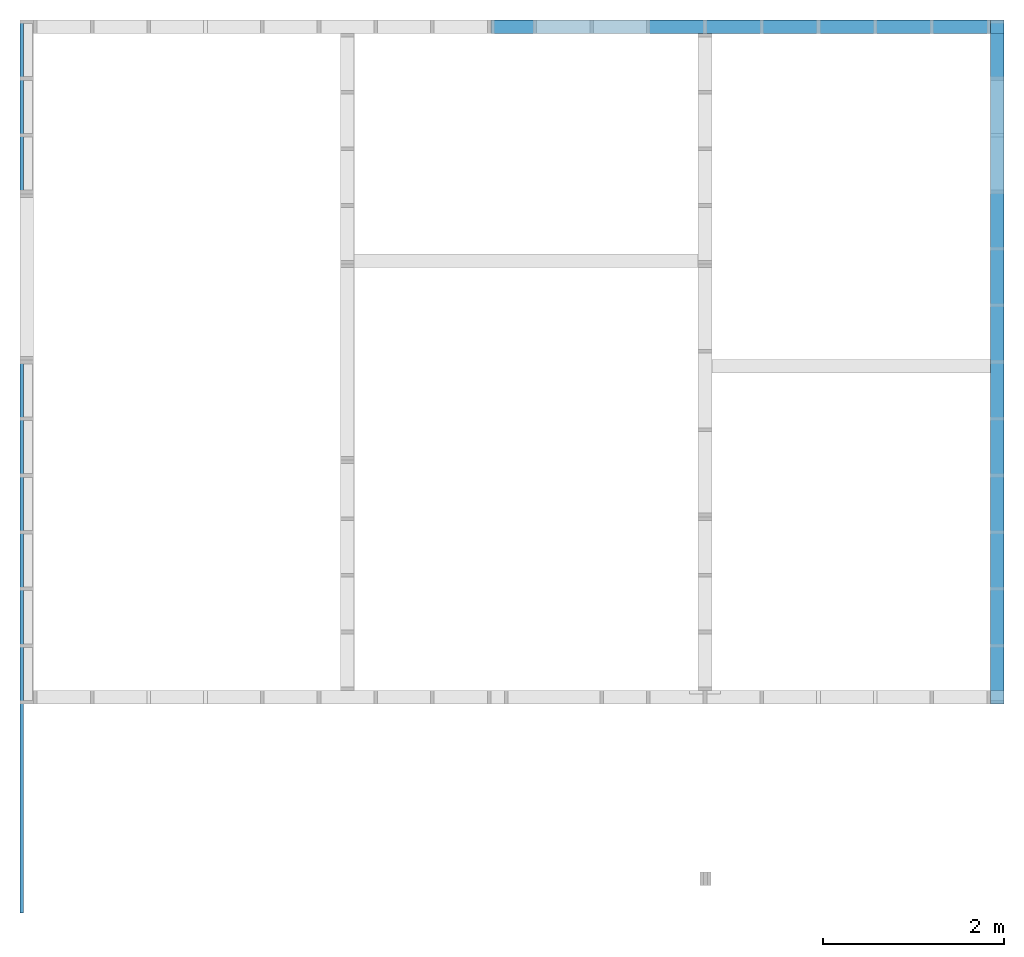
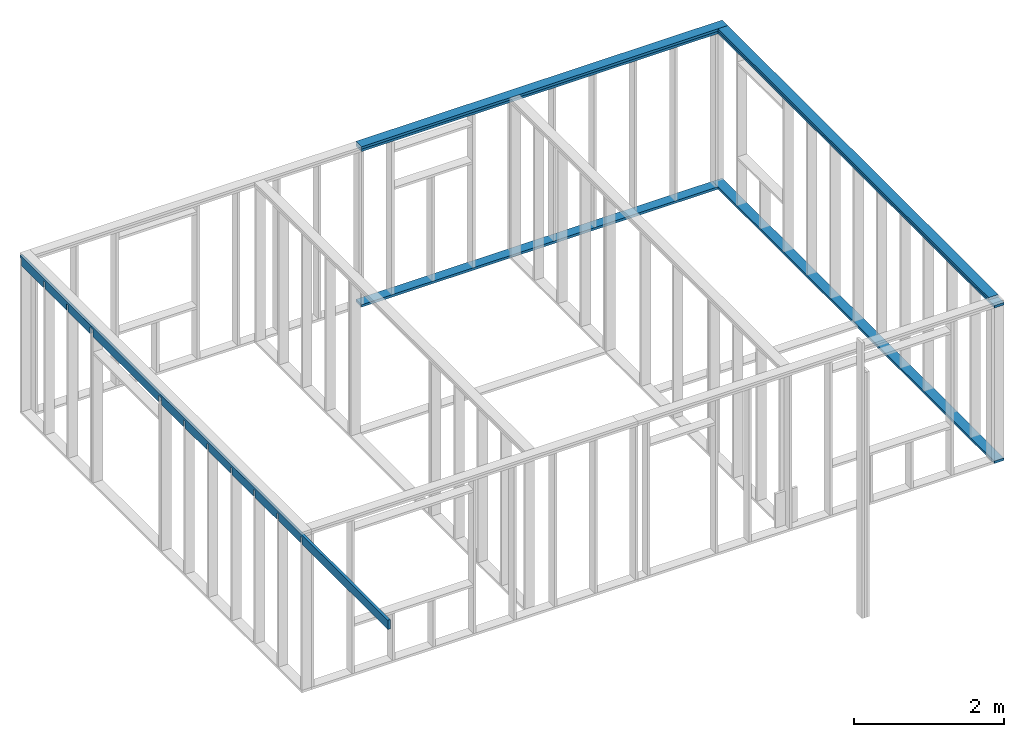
# One storey, part 2 of 2: 7 beams.
"""IFC4 building model written with IfcOpenShell, lengths in millimetres."""

from ifc_helpers import new_model, si_unit, derived_unit, frame, origin_with_axes, place, context, subcontext, project, spatial, polygons, source, transform, mapped, material, type_object, element, save


model = new_model("IFC4")

# Units and contexts
model_context = context("Model", 3, precision=1e-06, world=origin_with_axes())
body_context = subcontext(model_context, "Body", "Model", "MODEL_VIEW")
ifc_project = project(units=[si_unit("LENGTHUNIT", "METRE", prefix="MILLI"), si_unit("AREAUNIT", "SQUARE_METRE"), si_unit("VOLUMEUNIT", "CUBIC_METRE"), si_unit("MASSUNIT", "GRAM", prefix="KILO"), si_unit("ELECTRICVOLTAGEUNIT", "VOLT", prefix="KILO"), si_unit("THERMODYNAMICTEMPERATUREUNIT", "DEGREE_CELSIUS"), si_unit("PRESSUREUNIT", "PASCAL", prefix="MEGA"), si_unit("PLANEANGLEUNIT", "RADIAN"), derived_unit("THERMALCONDUCTANCEUNIT", [(si_unit("POWERUNIT", "WATT"), 1), (si_unit("LENGTHUNIT", "METRE"), -1), (si_unit("THERMODYNAMICTEMPERATUREUNIT", "KELVIN"), -1)]), derived_unit("MASSDENSITYUNIT", [(si_unit("MASSUNIT", "GRAM", prefix="KILO"), 1), (si_unit("VOLUMEUNIT", "CUBIC_METRE"), -1)])], contexts=[model_context])

# Site, building, storey
site_placement = place(None, origin_with_axes())
site = spatial("IfcSite", under=ifc_project, at=site_placement, CompositionType="ELEMENT")
building_placement = place(site_placement, origin_with_axes())
building = spatial("IfcBuilding", under=site, at=building_placement, CompositionType="ELEMENT")
storey_placement = place(building_placement, origin_with_axes())
storey = spatial("IfcBuildingStorey", under=building, at=storey_placement, Name="Базовый уровень", CompositionType="ELEMENT", Elevation=0.0)

# Beams
ifc_material_1 = material(Name="Древесина конструктивная")
beam_type = type_object("IfcBeamType", Name="Доска 40х150", PredefinedType="BEAM")
shared_shape_1 = source(origin_with_axes(), body_context, "Body", "Tessellation", [
    polygons([(10695.000000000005, 7539.999999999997, 0.0), (10845.000000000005, 7539.999999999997, 0.0), (10845.000000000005, 7.276e-12, 0.0), (10695.000000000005, 7.276e-12, 0.0), (10695.000000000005, 7539.999999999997, 40.0), (10845.000000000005, 7539.999999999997, 40.0), (10845.000000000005, 7.276e-12, 40.0), (10695.000000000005, 7.276e-12, 40.0)], [[[1, 2, 3, 4]], [[2, 1, 5, 6]], [[2, 6, 7, 3]], [[3, 7, 8, 4]], [[5, 1, 4, 8]], [[6, 5, 8, 7]]], closed=True),
])
beam_1_placement = place(storey_placement, frame((10695.000000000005, 7539.999999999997, 0.0), z_axis=(0.0, 1.0, 0.0), x_axis=(-1.0, 0.0, 0.0)))
element("IfcBeam", 1, at=beam_1_placement, inside=storey, type_object=beam_type, material=ifc_material_1, Name="Балка - Доска 40х150", context=body_context, shape_type="MappedRepresentation", body=[
    mapped(shared_shape_1, transform((10695.000000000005, 0.0, -7539.999999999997), x_axis=(-1.0, 0.0, 0.0), y_axis=(0.0, 0.0, 1.0), z_axis=(0.0, 1.0, 0.0), scale=1.0)),
])
shared_shape_2 = source(origin_with_axes(), body_context, "Body", "Tessellation", [
    polygons([(10695.000000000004, 7539.999999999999, 0.0), (10695.000000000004, 7539.999999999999, 40.0), (10695.000000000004, 7389.999999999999, 40.0), (10695.000000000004, 7389.999999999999, 0.0), (5190.0, 7539.999999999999, 0.0), (5190.0, 7539.999999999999, 40.0), (5190.0, 7389.999999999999, 40.0), (5190.0, 7389.999999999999, 0.0)], [[[1, 2, 3, 4]], [[5, 6, 2, 1]], [[6, 7, 3, 2]], [[7, 8, 4, 3]], [[8, 5, 1, 4]], [[5, 8, 7, 6]]], closed=True),
])
beam_2_placement = place(storey_placement, frame((5190.0, 7389.999999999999, 0.0), z_axis=(-1.0, 0.0, 0.0), x_axis=(0.0, -1.0, 0.0)))
element("IfcBeam", 2, at=beam_2_placement, inside=storey, type_object=beam_type, material=ifc_material_1, Name="Балка - Доска 40х150", context=body_context, shape_type="MappedRepresentation", body=[
    mapped(shared_shape_2, transform((7389.999999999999, 0.0, 5190.0), x_axis=(0.0, 0.0, -1.0), y_axis=(-1.0, 0.0, 0.0), z_axis=(0.0, 1.0, 0.0), scale=1.0)),
])
shared_shape_3 = source(origin_with_axes(), body_context, "Body", "Tessellation", [
    polygons([(-150.0, 0.0, 0.0), (-150.0, 40.0, 0.0), (-150.0, 40.0, -7539.99999999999), (-150.0, 0.0, -7539.99999999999), (0.0, 40.0, 0.0), (0.0, 40.0, -7539.99999999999), (0.0, 0.0, 0.0), (0.0, 0.0, -7539.99999999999)], [[[1, 2, 3, 4]], [[2, 5, 6, 3]], [[5, 7, 8, 6]], [[7, 1, 4, 8]], [[4, 3, 6, 8]], [[1, 7, 5, 2]]], closed=True),
])
beam_3_placement = place(storey_placement, frame((10695.000000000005, 7539.99999999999, 2540.0), z_axis=(0.0, 1.0, 0.0), x_axis=(-1.0, 0.0, 0.0)))
element("IfcBeam", 3, at=beam_3_placement, inside=storey, type_object=beam_type, material=ifc_material_1, Name="Балка - Доска 40х150", context=body_context, shape_type="MappedRepresentation", body=[
    mapped(shared_shape_3, transform((0.0, 0.0, 0.0), x_axis=(1.0, 0.0, 0.0), y_axis=(0.0, 1.0, 0.0), z_axis=(0.0, 0.0, 1.0), scale=1.0)),
])
shared_shape_4 = source(origin_with_axes(), body_context, "Body", "Tessellation", [
    polygons([(10695.000000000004, 7539.99999999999, 2540.0), (10695.000000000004, 7539.99999999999, 2580.0), (10695.000000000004, 7389.99999999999, 2580.0), (10695.000000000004, 7389.99999999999, 2540.0), (5190.0, 7539.99999999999, 2540.0), (5190.0, 7539.99999999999, 2580.0), (5190.0, 7389.99999999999, 2580.0), (5190.0, 7389.99999999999, 2540.0)], [[[1, 2, 3, 4]], [[5, 6, 2, 1]], [[6, 7, 3, 2]], [[7, 8, 4, 3]], [[8, 5, 1, 4]], [[5, 8, 7, 6]]], closed=True),
])
beam_4_placement = place(storey_placement, frame((5190.0, 7389.99999999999, 2540.0), z_axis=(-1.0, 0.0, 0.0), x_axis=(0.0, -1.0, 0.0)))
element("IfcBeam", 4, at=beam_4_placement, inside=storey, type_object=beam_type, material=ifc_material_1, Name="Балка - Доска 40х150", context=body_context, shape_type="MappedRepresentation", body=[
    mapped(shared_shape_4, transform((7389.99999999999, -2540.0, 5190.0), x_axis=(0.0, 0.0, -1.0), y_axis=(-1.0, 0.0, 0.0), z_axis=(0.0, 1.0, 0.0), scale=1.0)),
])
shared_shape_5 = source(origin_with_axes(), body_context, "Body", "Tessellation", [
    polygons([(10845.000000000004, 7389.999999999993, 2580.0), (10695.000000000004, 7389.999999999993, 2580.0), (10695.000000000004, 7389.999999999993, 2620.0), (10845.000000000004, 7389.999999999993, 2620.0), (10845.000000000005, 150.00000000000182, 2580.0), (10695.000000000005, 150.00000000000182, 2580.0), (10695.000000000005, 150.00000000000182, 2620.0), (10845.000000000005, 150.00000000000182, 2620.0)], [[[1, 2, 3, 4]], [[2, 1, 5, 6]], [[3, 2, 6, 7]], [[4, 3, 7, 8]], [[1, 4, 8, 5]], [[5, 8, 7, 6]]], closed=True),
])
beam_5_placement = place(storey_placement, frame((10695.000000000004, 7389.999999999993, 2580.0), z_axis=(0.0, 1.0, 0.0), x_axis=(-1.0, 0.0, 0.0)))
element("IfcBeam", 5, at=beam_5_placement, inside=storey, type_object=beam_type, material=ifc_material_1, Name="Балка - Доска 40х150", context=body_context, shape_type="MappedRepresentation", body=[
    mapped(shared_shape_5, transform((10695.000000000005, -2580.0, -7389.99999999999), x_axis=(-1.0, 0.0, 0.0), y_axis=(0.0, 0.0, 1.0), z_axis=(0.0, 1.0, 0.0), scale=1.0)),
])
shared_shape_6 = source(origin_with_axes(), body_context, "Body", "Tessellation", [
    polygons([(-150.0, 0.0, 0.0), (-150.0, 40.0, 0.0), (-150.0, 40.0, -5655.0000000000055), (-150.0, 0.0, -5655.0000000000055), (0.0, 40.0, 0.0), (0.0, 40.0, -5655.0000000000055), (0.0, 0.0, 0.0), (0.0, 0.0, -5655.0000000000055)], [[[1, 2, 3, 4]], [[2, 5, 6, 3]], [[5, 7, 8, 6]], [[7, 1, 4, 8]], [[4, 3, 6, 8]], [[1, 7, 5, 2]]], closed=True),
])
beam_6_placement = place(storey_placement, frame((5190.0, 7389.999999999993, 2580.0), z_axis=(-1.0, 0.0, 0.0), x_axis=(0.0, -1.0, 0.0)))
element("IfcBeam", 6, at=beam_6_placement, inside=storey, type_object=beam_type, material=ifc_material_1, Name="Балка - Доска 40х150", context=body_context, shape_type="MappedRepresentation", body=[
    mapped(shared_shape_6, transform((0.0, 0.0, 0.0), x_axis=(1.0, 0.0, 0.0), y_axis=(0.0, 1.0, 0.0), z_axis=(0.0, 0.0, 1.0), scale=1.0)),
])
ifc_material_2 = material(Name="Древесина жел")
shared_shape_7 = source(origin_with_axes(), body_context, "Body", "Tessellation", [
    polygons([(-40.0, -39.999999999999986, -3e-15), (3e-15, -40.0, 1e-15), (4e-15, 0.0, 0.0), (-40.0, 0.0, 0.0), (0.0, -40.0, -39.999999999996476), (-4e-15, -150.0, -39.999999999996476), (-4e-15, -150.0, -624.9999999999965), (0.0, -40.0, -624.9999999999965), (0.0, -40.0, -664.9999999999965), (-4e-15, -150.0, -664.9999999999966), (-4e-15, -150.0, -1249.9999999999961), (0.0, -40.0, -1249.9999999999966), (0.0, -40.0, -1289.9999999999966), (-4e-15, -150.0, -1289.9999999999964), (-4e-15, -150.0, -1874.9999999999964), (0.0, -40.0, -1874.9999999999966), (0.0, -40.0, -1954.9999999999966), (-4e-15, -150.0, -1954.9999999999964), (-4e-15, -150.0, -3709.999999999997), (0.0, -40.000000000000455, -3709.9999999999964), (0.0, -40.000000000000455, -3789.9999999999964), (-4e-15, -150.0, -3789.9999999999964), (-4e-15, -150.0, -4374.999999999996), (0.0, -40.000000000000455, -4374.999999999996), (0.0, -40.000000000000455, -4414.999999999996), (-4e-15, -150.0, -4414.999999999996), (-4e-15, -150.0, -4999.999999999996), (0.0, -40.000000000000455, -4999.999999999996), (0.0, -40.000000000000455, -5039.999999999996), (-4e-15, -150.0, -5039.999999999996), (-4e-15, -150.0, -5624.999999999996), (0.0, -40.000000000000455, -5624.999999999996), (0.0, -40.000000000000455, -5664.999999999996), (-4e-15, -150.0, -5664.999999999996), (-4e-15, -150.0, -6249.999999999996), (0.0, -40.000000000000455, -6249.999999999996), (0.0, -40.000000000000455, -6289.999999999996), (-4e-15, -150.0, -6289.999999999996), (-4e-15, -150.0, -6874.999999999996), (0.0, -40.000000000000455, -6874.999999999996), (0.0, -40.000000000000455, -6914.999999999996), (-4e-15, -150.0, -6914.999999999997), (-4e-15, -150.0, -7499.999999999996), (0.0, -40.000000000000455, -7499.999999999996), (0.0, -40.000000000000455, -7539.999999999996), (-4e-15, -150.0, -7539.999999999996), (-4e-15, -150.0, -9840.0), (4e-15, 0.0, -9840.0), (-40.0, -150.0, -39.99999999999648), (-40.0, -40.0, -39.999999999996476), (-40.0, 0.0, -9840.0), (-40.0, -150.0, -9840.0), (-40.0, -150.0, -7539.999999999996), (-40.0, -40.000000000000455, -7539.999999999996), (-40.000000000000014, -40.000000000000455, -7499.999999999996), (-40.0, -150.0, -7499.999999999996), (-40.0, -150.0, -6914.999999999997), (-40.0, -40.000000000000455, -6914.999999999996), (-40.000000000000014, -40.000000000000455, -6874.999999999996), (-40.0, -150.0, -6874.999999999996), (-40.0, -150.0, -6289.999999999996), (-40.0, -40.000000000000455, -6289.999999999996), (-40.000000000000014, -40.000000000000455, -6249.999999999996), (-40.0, -150.0, -6249.999999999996), (-40.0, -150.0, -5664.999999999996), (-40.0, -40.000000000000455, -5664.999999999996), (-40.000000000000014, -40.000000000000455, -5624.999999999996), (-40.0, -150.0, -5624.999999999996), (-40.0, -150.0, -5039.999999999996), (-40.0, -40.000000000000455, -5039.999999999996), (-40.000000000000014, -40.000000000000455, -4999.999999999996), (-40.0, -150.0, -4999.999999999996), (-40.0, -150.0, -4414.999999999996), (-40.0, -40.000000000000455, -4414.999999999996), (-40.000000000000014, -40.000000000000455, -4374.999999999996), (-40.0, -150.0, -4374.999999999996), (-40.00000000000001, -150.0, -3789.9999999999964), (-40.0, -40.000000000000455, -3789.9999999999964), (-40.000000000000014, -40.000000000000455, -3709.9999999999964), (-40.00000000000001, -150.0, -3709.9999999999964), (-40.00000000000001, -150.0, -1954.9999999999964), (-40.0, -40.0, -1954.9999999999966), (-40.000000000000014, -40.0, -1874.9999999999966), (-40.00000000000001, -150.0, -1874.9999999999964), (-40.00000000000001, -150.0, -1289.9999999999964), (-40.0, -40.0, -1289.9999999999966), (-40.000000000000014, -40.0, -1249.9999999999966), (-40.00000000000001, -150.0, -1249.9999999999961), (-40.00000000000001, -150.0, -664.9999999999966), (-40.0, -40.0, -664.9999999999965), (-40.000000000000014, -40.0, -624.9999999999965), (-40.00000000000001, -150.0, -624.9999999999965)], [[[1, 2, 3, 4]], [[5, 6, 7, 8, 9, 10, 11, 12, 13, 14, 15, 16, 17, 18, 19, 20, 21, 22, 23, 24, 25, 26, 27, 28, 29, 30, 31, 32, 33, 34, 35, 36, 37, 38, 39, 40, 41, 42, 43, 44, 45, 46, 47, 48, 3, 2]], [[49, 50, 1, 4, 51, 52, 53, 54, 55, 56, 57, 58, 59, 60, 61, 62, 63, 64, 65, 66, 67, 68, 69, 70, 71, 72, 73, 74, 75, 76, 77, 78, 79, 80, 81, 82, 83, 84, 85, 86, 87, 88, 89, 90, 91, 92]], [[6, 49, 92, 7]], [[10, 89, 88, 11]], [[14, 85, 84, 15]], [[18, 81, 80, 19]], [[22, 77, 76, 23]], [[26, 73, 72, 27]], [[30, 69, 68, 31]], [[34, 65, 64, 35]], [[38, 61, 60, 39]], [[42, 57, 56, 43]], [[46, 53, 52, 47]], [[55, 54, 45, 44]], [[43, 56, 55, 44]], [[53, 46, 45, 54]], [[59, 58, 41, 40]], [[39, 60, 59, 40]], [[57, 42, 41, 58]], [[63, 62, 37, 36]], [[35, 64, 63, 36]], [[61, 38, 37, 62]], [[67, 66, 33, 32]], [[31, 68, 67, 32]], [[65, 34, 33, 66]], [[71, 70, 29, 28]], [[27, 72, 71, 28]], [[69, 30, 29, 70]], [[75, 74, 25, 24]], [[23, 76, 75, 24]], [[73, 26, 25, 74]], [[77, 22, 21, 78]], [[19, 80, 79, 20]], [[79, 78, 21, 20]], [[81, 18, 17, 82]], [[15, 84, 83, 16]], [[83, 82, 17, 16]], [[87, 86, 13, 12]], [[11, 88, 87, 12]], [[85, 14, 13, 86]], [[91, 90, 9, 8]], [[7, 92, 91, 8]], [[89, 10, 9, 90]], [[1, 50, 5, 2]], [[49, 6, 5, 50]], [[4, 3, 48, 51]], [[47, 52, 51, 48]]], closed=True),
])
beam_7_placement = place(storey_placement, frame((0.0, 7539.999999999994, 2580.0), z_axis=(0.0, 1.0, 0.0), x_axis=(0.0, 0.0, 1.0)))
element("IfcBeam", 7, at=beam_7_placement, inside=storey, type_object=beam_type, material=ifc_material_2, Name="Балка - Доска 40х150", context=body_context, shape_type="MappedRepresentation", body=[
    mapped(shared_shape_7, transform((0.0, 0.0, 0.0), x_axis=(0.0, -1.0, 0.0), y_axis=(1.0, 0.0, 0.0), z_axis=(0.0, 0.0, 1.0), scale=1.0)),
])

save(model, "model.ifc")
